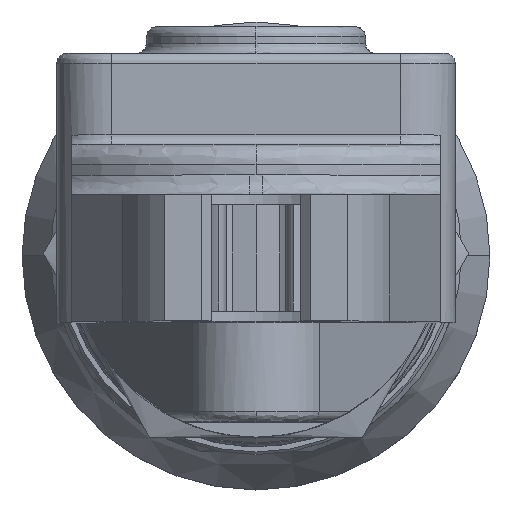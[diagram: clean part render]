
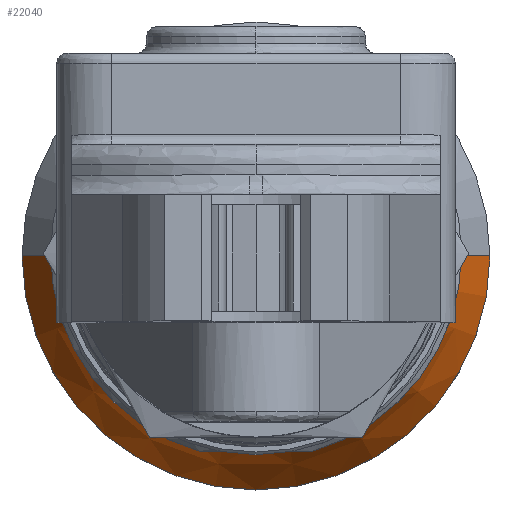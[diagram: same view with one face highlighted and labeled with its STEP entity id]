
A CAD part, top view. The second image highlights one B-rep face of the part: STEP entity #22040.
In plain terms, the highlighted conical face has half-angle 30 degrees and reference radius 19.05 mm.
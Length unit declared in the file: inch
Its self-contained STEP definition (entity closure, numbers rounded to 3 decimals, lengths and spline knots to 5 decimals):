
#591 = CARTESIAN_POINT ( 'NONE',  ( -0.75, 0., -5.395 ) ) ;
#1381 = VECTOR ( 'NONE', #47349, 39.37008 ) ;
#1867 = DIRECTION ( 'NONE',  ( -1., 0., 0. ) ) ;
#1878 = DIRECTION ( 'NONE',  ( 0., 0., -1. ) ) ;
#1953 = CARTESIAN_POINT ( 'NONE',  ( 0., 0., -5.69811 ) ) ;
#2276 = DIRECTION ( 'NONE',  ( -1., 0., 0. ) ) ;
#2820 = EDGE_CURVE ( 'NONE', #5785, #28364, #57094, .T. ) ;
#3591 = DIRECTION ( 'NONE',  ( 0., 0., -1. ) ) ;
#3606 = EDGE_CURVE ( 'NONE', #30218, #51784, #7841, .T. ) ;
#5027 = CARTESIAN_POINT ( 'NONE',  ( -0.925, 0., -5.69811 ) ) ;
#5785 = VERTEX_POINT ( 'NONE', #591 ) ;
#6117 = CARTESIAN_POINT ( 'NONE',  ( 0.75, 0., -5.395 ) ) ;
#6546 = ORIENTED_EDGE ( 'NONE', *, *, #63241, .T. ) ;
#7841 = LINE ( 'NONE', #52801, #1381 ) ;
#8263 = ORIENTED_EDGE ( 'NONE', *, *, #32397, .F. ) ;
#10378 = AXIS2_PLACEMENT_3D ( 'NONE', #65369, #33965, #2276 ) ;
#11248 = CIRCLE ( 'NONE', #56781, 0.925 ) ;
#16850 = ORIENTED_EDGE ( 'NONE', *, *, #3606, .F. ) ;
#17264 = CONICAL_SURFACE ( 'NONE', #19227, 0.75, 0.524 ) ;
#19227 = AXIS2_PLACEMENT_3D ( 'NONE', #24244, #3591, #24473 ) ;
#22040 = ADVANCED_FACE ( 'NONE', ( #60673 ), #17264, .T. ) ;
#24244 = CARTESIAN_POINT ( 'NONE',  ( 0., 0., -5.395 ) ) ;
#24292 = EDGE_LOOP ( 'NONE', ( #16850, #6546, #62477, #8263 ) ) ;
#24473 = DIRECTION ( 'NONE',  ( -1., 0., 0. ) ) ;
#28364 = VERTEX_POINT ( 'NONE', #5027 ) ;
#30218 = VERTEX_POINT ( 'NONE', #6117 ) ;
#32397 = EDGE_CURVE ( 'NONE', #51784, #28364, #11248, .T. ) ;
#33965 = DIRECTION ( 'NONE',  ( 0., 0., -1. ) ) ;
#34257 = VECTOR ( 'NONE', #59478, 39.37008 ) ;
#47349 = DIRECTION ( 'NONE',  ( 0.5, 0., -0.866 ) ) ;
#49677 = CARTESIAN_POINT ( 'NONE',  ( 0.925, 0., -5.69811 ) ) ;
#51784 = VERTEX_POINT ( 'NONE', #49677 ) ;
#52801 = CARTESIAN_POINT ( 'NONE',  ( 0.75, 0., -5.395 ) ) ;
#56781 = AXIS2_PLACEMENT_3D ( 'NONE', #1953, #1878, #1867 ) ;
#57094 = LINE ( 'NONE', #57800, #34257 ) ;
#57800 = CARTESIAN_POINT ( 'NONE',  ( -0.75, 0., -5.395 ) ) ;
#59478 = DIRECTION ( 'NONE',  ( -0.5, 0., -0.866 ) ) ;
#60673 = FACE_OUTER_BOUND ( 'NONE', #24292, .T. ) ;
#62477 = ORIENTED_EDGE ( 'NONE', *, *, #2820, .T. ) ;
#63241 = EDGE_CURVE ( 'NONE', #30218, #5785, #64017, .T. ) ;
#64017 = CIRCLE ( 'NONE', #10378, 0.75 ) ;
#65369 = CARTESIAN_POINT ( 'NONE',  ( 0., 0., -5.395 ) ) ;
